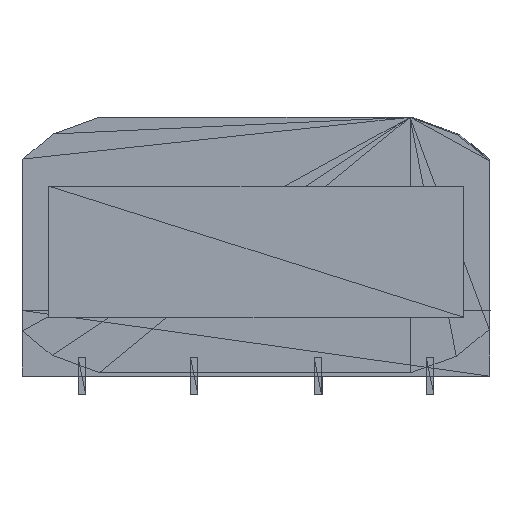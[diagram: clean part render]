
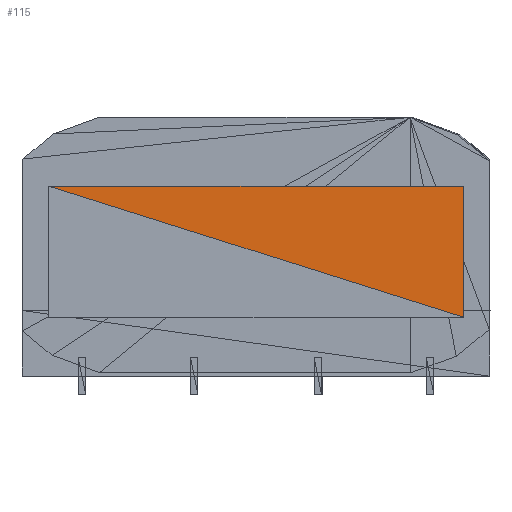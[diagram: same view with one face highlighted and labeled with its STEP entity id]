
A CAD part, left-side view. The second image highlights one B-rep face of the part: STEP entity #115.
In plain terms, the highlighted planar face has unit normal (-1, 0, 0).
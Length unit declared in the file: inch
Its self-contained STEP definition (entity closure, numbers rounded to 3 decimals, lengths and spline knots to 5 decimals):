
#66=CARTESIAN_POINT('',(-1.55823,-1.10827,1.01485));
#67=VERTEX_POINT('',#66);
#68=CARTESIAN_POINT('',(-1.55823,1.10786,1.01531));
#69=VERTEX_POINT('',#68);
#70=CARTESIAN_POINT('',(-1.55823,-1.10827,1.01485));
#71=DIRECTION('',(0.,1.,0.));
#72=VECTOR('',#71,2.21613);
#73=LINE('',#70,#72);
#74=EDGE_CURVE('',#67,#69,#73,.T.);
#93=CARTESIAN_POINT('',(-1.55823,1.10786,1.01531));
#94=DIRECTION('',(1.,0.,0.));
#95=DIRECTION('',(0.,1.,0.));
#96=AXIS2_PLACEMENT_3D('',#93,#94,#95);
#97=PLANE('',#96);
#98=CARTESIAN_POINT('',(-1.55823,-1.10813,0.3148));
#99=VERTEX_POINT('',#98);
#100=CARTESIAN_POINT('',(-1.55823,-1.10813,0.3148));
#101=DIRECTION('',(0.,0.953,0.301));
#102=VECTOR('',#101,2.32407);
#103=LINE('',#100,#102);
#104=EDGE_CURVE('',#99,#69,#103,.T.);
#105=ORIENTED_EDGE('',*,*,#104,.F.);
#106=CARTESIAN_POINT('',(-1.55823,-1.10813,0.3148));
#107=DIRECTION('',(0.,0.,1.));
#108=VECTOR('',#107,0.70005);
#109=LINE('',#106,#108);
#110=EDGE_CURVE('',#99,#67,#109,.T.);
#111=ORIENTED_EDGE('',*,*,#110,.T.);
#112=ORIENTED_EDGE('',*,*,#74,.T.);
#113=EDGE_LOOP('',(#105,#111,#112));
#114=FACE_BOUND('',#113,.T.);
#115=ADVANCED_FACE('',(#114),#97,.F.);
